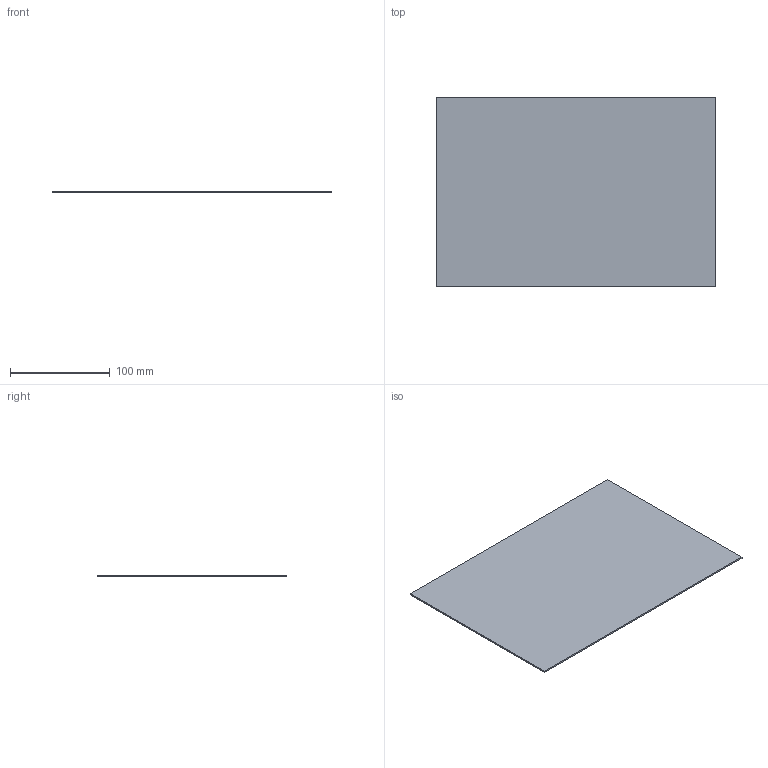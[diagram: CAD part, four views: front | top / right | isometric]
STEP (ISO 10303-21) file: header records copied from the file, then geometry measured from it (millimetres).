
FILE_DESCRIPTION(('KiCad electronic assembly'),'2;1');
FILE_NAME('board.step','2026-08-08T16:01:50',('Pcbnew'),('Kicad'), 'Open CASCADE STEP processor 7.9','KiCad to STEP converter','Unknown' );
FILE_SCHEMA(('AUTOMOTIVE_DESIGN { 1 0 10303 214 1 1 1 1 }'));
Length unit declared in the file: millimetre
Products named in the file (2): board 1; student_14_5_PCB
Assembly tree (1 placements, depth 2):
  board 1
    student_14_5_PCB
Bounding box: 280 x 190 x 1.51 mm (x, y, z)
Volume: 80332 mm3; surface area: 107819.4 mm2
Topology: 1 solids, 1 shells, 6 faces, 12 edges, 8 vertices
Faces by surface type: plane 6
Entity records: 193 total; most frequent: CARTESIAN_POINT 28, DIRECTION 28, ORIENTED_EDGE 24, EDGE_CURVE 12, LINE 12, VECTOR 12, AXIS2_PLACEMENT_3D 8, VERTEX_POINT 8
